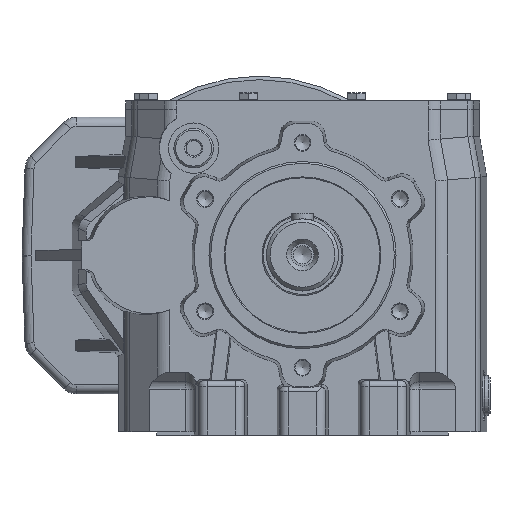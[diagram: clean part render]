
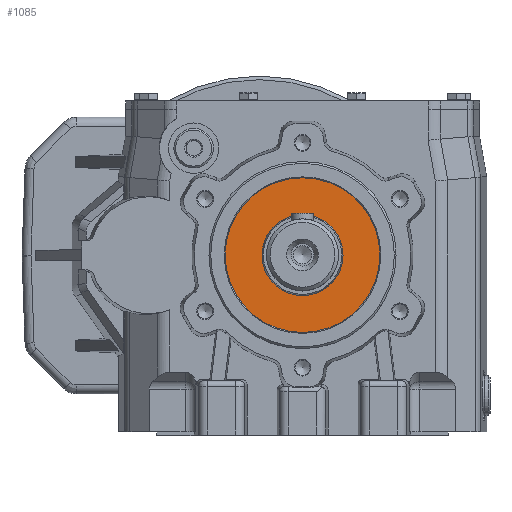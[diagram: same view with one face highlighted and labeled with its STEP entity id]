
A CAD part, top view. The second image highlights one B-rep face of the part: STEP entity #1085.
In plain terms, the highlighted planar face has unit normal (0, 0, 1).
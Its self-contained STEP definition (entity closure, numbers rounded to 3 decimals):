
#1085 = ADVANCED_FACE( '', ( #3040, #3041 ), #3042, .F. );
#3040 = FACE_BOUND( '', #6385, .T. );
#3041 = FACE_OUTER_BOUND( '', #6386, .T. );
#3042 = PLANE( '', #6387 );
#6385 = EDGE_LOOP( '', ( #10909 ) );
#6386 = EDGE_LOOP( '', ( #10910 ) );
#6387 = AXIS2_PLACEMENT_3D( '', #10911, #10912, #10913 );
#10909 = ORIENTED_EDGE( '', *, *, #18127, .F. );
#10910 = ORIENTED_EDGE( '', *, *, #18128, .T. );
#10911 = CARTESIAN_POINT( '', ( 0., 42.5, 12.5 ) );
#10912 = DIRECTION( '', ( 0., 0., -1. ) );
#10913 = DIRECTION( '', ( 1., 0., 0. ) );
#18127 = EDGE_CURVE( '', #21218, #21218, #21219, .T. );
#18128 = EDGE_CURVE( '', #21220, #21220, #21221, .F. );
#21218 = VERTEX_POINT( '', #25658 );
#21219 = CIRCLE( '', #25659, 22.5 );
#21220 = VERTEX_POINT( '', #25660 );
#21221 = CIRCLE( '', #25661, 43. );
#25658 = CARTESIAN_POINT( '', ( 22.5, 0., 12.5 ) );
#25659 = AXIS2_PLACEMENT_3D( '', #32073, #32074, #32075 );
#25660 = CARTESIAN_POINT( '', ( 0., 43., 12.5 ) );
#25661 = AXIS2_PLACEMENT_3D( '', #32076, #32077, #32078 );
#32073 = CARTESIAN_POINT( '', ( 0., 0., 12.5 ) );
#32074 = DIRECTION( '', ( 0., 0., 1. ) );
#32075 = DIRECTION( '', ( 1., 0., 0. ) );
#32076 = CARTESIAN_POINT( '', ( 0., 0., 12.5 ) );
#32077 = DIRECTION( '', ( 0., 0., -1. ) );
#32078 = DIRECTION( '', ( 0., 1., 0. ) );
